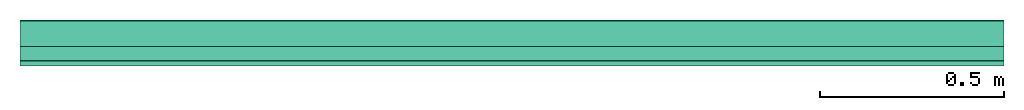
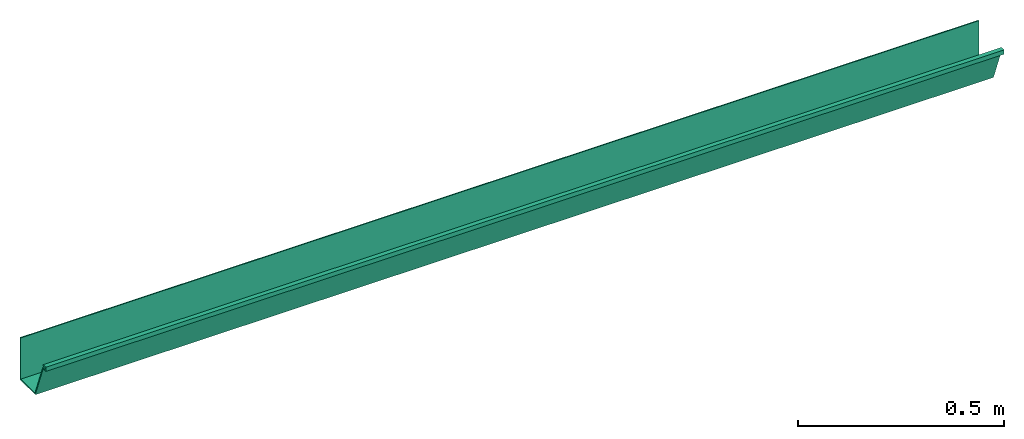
# One storey: 1 pipe segment.
"""IFC4 building model written with IfcOpenShell, lengths in centimetres."""

from ifc_helpers import new_model, entity, si_unit, converted_unit, direction, frame, origin, place, context, subcontext, project, spatial, indexed_curve, outline, extrude, type_object, element, save


model = new_model("IFC4")

# Units and contexts
model_context = context("Model", 3, precision=0.001, world=origin(), true_north=direction((0.0, 1.0)))
body_context = subcontext(model_context, "Body", "Model", "MODEL_VIEW")
ifc_project = project(units=[si_unit("LENGTHUNIT", "METRE", prefix="CENTI"), si_unit("AREAUNIT", "SQUARE_METRE"), si_unit("VOLUMEUNIT", "CUBIC_METRE"), converted_unit("PLANEANGLEUNIT", "DEGREE", entity("IfcPlaneAngleMeasure", 0.017453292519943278), si_unit("PLANEANGLEUNIT", "RADIAN"), dimensions=[0, 0, 0, 0, 0, 0, 0])], contexts=[model_context])

# Site, building, storey
site_placement = place(None, origin())
site = spatial("IfcSite", under=ifc_project, at=site_placement, Name="Default", CompositionType="ELEMENT")
building_placement = place(site_placement, origin())
building = spatial("IfcBuilding", under=site, at=building_placement, CompositionType="ELEMENT")
storey_placement = place(building_placement, frame((0.0, 0.0, 843.0)))
storey = spatial("IfcBuildingStorey", under=building, at=storey_placement, Name="L03__ABOVE Slab", CompositionType="ELEMENT", Elevation=842.9999999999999)

# Pipe segment
pipe_segment_type = type_object("IfcPipeSegmentType", Name="Gutters : Gutter : Gutter", PredefinedType="GUTTER")
pipe_segment_placement = place(storey_placement, frame((4816.681063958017, 638.877938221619, 3.6495065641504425)))
element("IfcPipeSegment", 1, at=pipe_segment_placement, inside=storey, type_object=pipe_segment_type, Name="Gutters : Gutter : Gutter", PredefinedType="GUTTER", context=body_context, shape_type="SweptSolid", body=[
    extrude(outline(indexed_curve([(-7.879088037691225, -7.806252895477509), (4.612135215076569, -7.806252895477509), (4.612135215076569, -7.4887528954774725), (-7.561588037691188, -7.4887528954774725), (-7.561588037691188, -0.6224826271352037), (2.389635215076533, 3.18751737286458), (2.389635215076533, 4.376247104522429), (3.024635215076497, 4.376247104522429), (3.024635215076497, 3.423747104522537), (3.342135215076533, 3.423747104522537), (3.342135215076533, 4.693747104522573), (2.072135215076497, 4.693747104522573), (2.072135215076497, 3.423747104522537), (-7.879088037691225, -0.38625289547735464), (-7.879088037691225, -7.806252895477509)], self_intersect=False)), frame((0.0, 4.693747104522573, 7.879088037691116), z_axis=(1.0, 0.0, 0.0), x_axis=(0.0, 0.0, 1.0)), (0.0, 0.0, 1.0), 267.998392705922),
])

save(model, "model.ifc")
